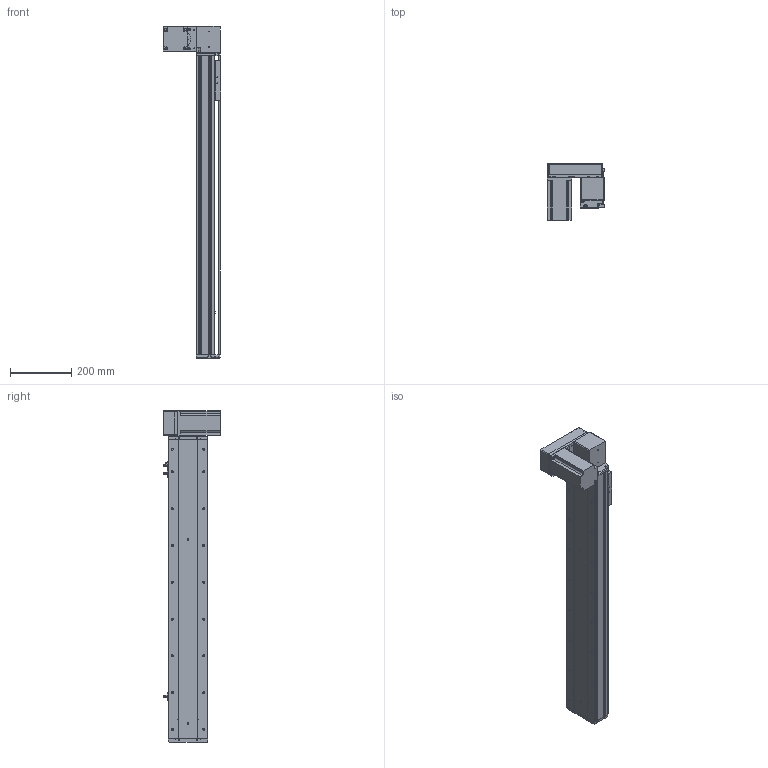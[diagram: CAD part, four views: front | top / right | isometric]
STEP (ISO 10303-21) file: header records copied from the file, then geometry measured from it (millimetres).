
FILE_DESCRIPTION (( 'STEP AP214' ), '1' );
FILE_NAME ('KSD130B-S750-MRD-CM.STEP', '2019-11-15T08:44:51', ( '微软用户' ), ( '微软中国' ), 'SwSTEP 2.0', 'SolidWorks 2014', '' );
FILE_SCHEMA (( 'AUTOMOTIVE_DESIGN' ));
Length unit declared in the file: millimetre
Products named in the file (12): 130宽马达安装板同步带半封闭; 130宽同步带安装座半封闭; 130宽端盖同步带半封闭; 130宽底板半封闭同步带-750行程; KSD130B-S750-MRD-CM; 130宽模组保护罩上下左右折-同步带; 台达ECMA－C20807AS伺服电机; 130宽模组马达安装板连板上下折丝杆同步带; 覜茼え100遵圉猾敕; U倰嫖萇EEㄜSX672; 130宽盖板半封闭同步带-750行程; 130宽马达安装板同步带右-改镜向_默认<按加工>
Assembly tree (13 placements, depth 2):
  KSD130B-S750-MRD-CM
    130宽底板半封闭同步带-750行程
    130宽端盖同步带半封闭
    130宽同步带安装座半封闭
    130宽马达安装板同步带半封闭
    130宽马达安装板同步带右-改镜向_默认<按加工>
    130宽盖板半封闭同步带-750行程
    U倰嫖萇EEㄜSX672  x3
    覜茼え100遵圉猾敕
    130宽模组马达安装板连板上下折丝杆同步带
    台达ECMA－C20807AS伺服电机
    130宽模组保护罩上下左右折-同步带
Bounding box: 187.5 x 184.8 x 1083 mm (x, y, z)
Volume: 4290867.4 mm3; surface area: 1149684.2 mm2
Topology: 14 solids, 14 shells, 1479 faces, 4205 edges, 2691 vertices
Faces by surface type: cylinder 702, plane 618, cone 159
Entity records: 48175 total; most frequent: CARTESIAN_POINT 8832, DIRECTION 7359, ORIENTED_EDGE 7078, EDGE_CURVE 3539, AXIS2_PLACEMENT_3D 2678, VERTEX_POINT 2315, LINE 2003, VECTOR 2003
